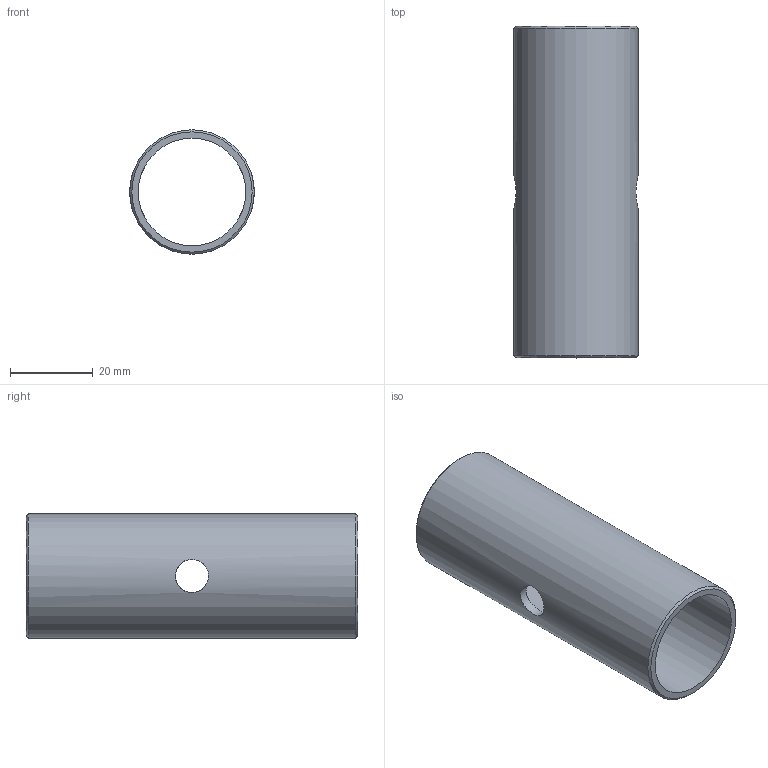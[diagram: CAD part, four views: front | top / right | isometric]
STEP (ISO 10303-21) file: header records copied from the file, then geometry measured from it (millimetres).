
FILE_DESCRIPTION( ( 'STEP AP214' ), '1' );
FILE_NAME( 'C:/Users/Segreteria/Desktop/CA.VLR.30.80.stp', '2014-07-14T11:57:49', ( ' ' ), ( ' ' ), 'XStep 1.0', ' ', ' ' );
FILE_SCHEMA( ( 'CONFIG_CONTROL_DESIGN) ( )' ) );
Length unit declared in the file: metre
Products named in the file (2): Assem1; VLR.30.80
Bounding box: 30 x 80 x 30 mm (x, y, z)
Volume: 28228.7 mm3; surface area: 28515.8 mm2
Topology: 2 solids, 2 shells, 16 faces, 40 edges, 26 vertices
Faces by surface type: cylinder 8, cone 4, plane 4
Full cylindrical faces by diameter (mm): 8 x4, 25.917 x2, 30 x2
Entity records: 539 total; most frequent: CARTESIAN_POINT 286, DIRECTION 32, EDGE_LOOP 20, ORIENTED_EDGE 20, AXIS2_PLACEMENT_3D 16, FACE_OUTER_BOUND 12, EDGE_CURVE 10, VERTEX_POINT 10
